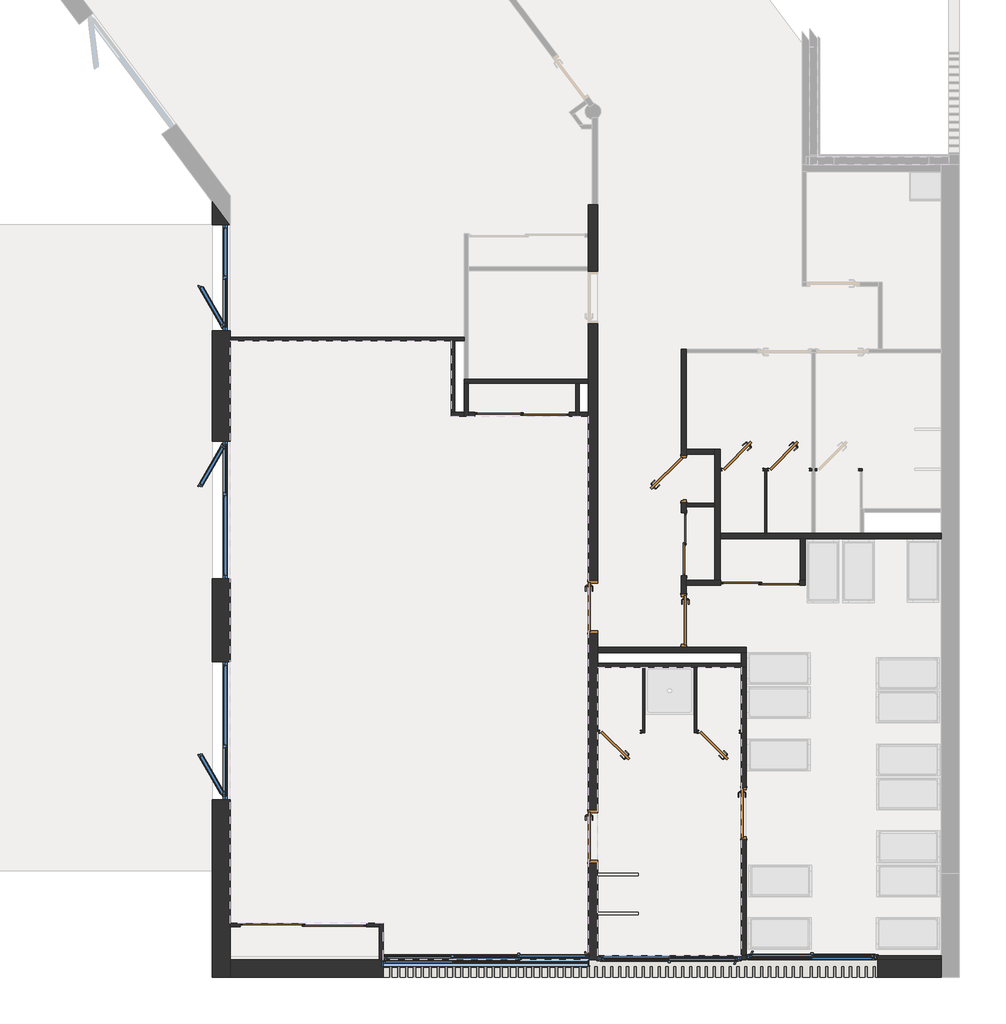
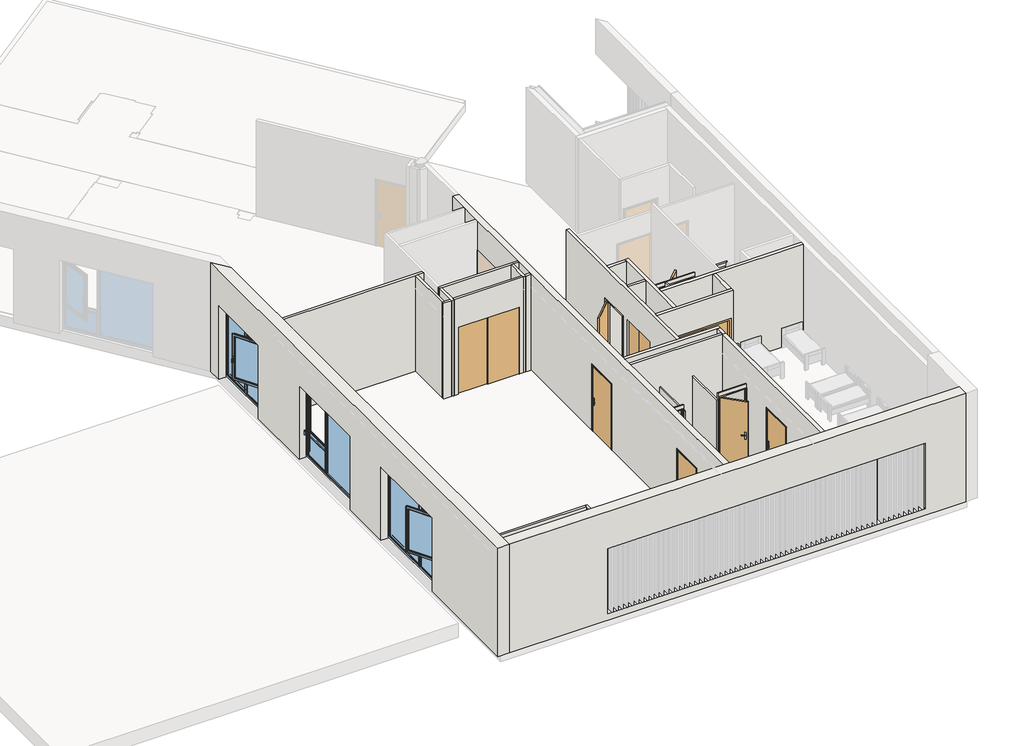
# One storey, part 1 of 4: 35 walls, 13 doors, 6 windows.
"""IFC4 building model written with IfcOpenShell, lengths in millimetres."""

from ifc_helpers import new_model, si_unit, frame, origin, place, context, project, spatial, polyline, outline, extrude, faceted_brep, transform, mapped, element, save
from components import int_simple_pp_0_73m_x_2_04m_179cc70a, int_simple_pp_0_73m_x_2_04m_9310f2cf, int_simple_pp_0_83m_x_2_04m_63dcc06d, int_simple_pp_0_93m_x_2_04m_4f2bf630, int_simple_pp_0_93m_x_2_04m_68d1b237, int_simple_pp_0_93m_x_2_04m_0354226a, placard_coulissante_2_panneaux_placard_coulissante_2_2c30b1b5, placard_coulissante_2_panneaux_placard_coulissante_2_3a5329ca, placard_coulissante_2_panneaux_placard_coulissante_2_65cc4ebb, placard_coulissante_2_panneaux_placard_coulissante_2_eb3e7d37, window_dbaeacc6, window_f4dcbe76, window_49c83c31, window_247b9f68, window_944cba15, window_c5311feb, window_2_50_x_2_05_4c13a54c, window_2_72_x_2_05_d5d4948e, window_3_90_x_2_05_370ec719

model = new_model("IFC4")

# Units and contexts
model_context = context("Model", 3, world=origin())
ifc_project = project(units=[si_unit("LENGTHUNIT", "METRE", prefix="MILLI")], contexts=[model_context])

# Site, building, storey
site = spatial("IfcSite", under=ifc_project)
building = spatial("IfcBuilding", under=site)
storey = spatial("IfcBuildingStorey", under=building, Name="1 Cdl 1er 3.95", Elevation=3950.0)

# Doors
placement = place(None, origin())
int_simple_pp_0_73m_x_2_04m_shape = int_simple_pp_0_73m_x_2_04m_179cc70a(model_context)
element("IfcDoor", 1, ObjectType="Int. Simple : PP (0.73m x 2.04m)", at=placement, inside=storey, context=model_context, shape_type="MappedRepresentation", body=[
    mapped(int_simple_pp_0_73m_x_2_04m_shape, transform((-2020.395491, -6492.3510598, 3950.0), x_axis=(-1.0, 0.0, 0.0), y_axis=(0.0, -1.0, 0.0), z_axis=(0.0, 0.0, 1.0))),
])
element("IfcDoor", 2, ObjectType="Int. Simple : PP (0.73m x 2.04m)", at=placement, inside=storey, context=model_context, shape_type="MappedRepresentation", body=[
    mapped(int_simple_pp_0_73m_x_2_04m_shape, transform((-1135.395491, -6492.3510598, 3950.0), x_axis=(-1.0, 0.0, 0.0), y_axis=(0.0, -1.0, 0.0), z_axis=(0.0, 0.0, 1.0))),
])
int_simple_pp_0_73m_x_2_04m_2_shape = int_simple_pp_0_73m_x_2_04m_9310f2cf(model_context)
element("IfcDoor", 3, ObjectType="Int. Simple : PP (0.73m x 2.04m)", at=placement, inside=storey, context=model_context, shape_type="MappedRepresentation", body=[
    mapped(int_simple_pp_0_73m_x_2_04m_2_shape, transform((-4344.5333363, -11476.4366169, 3950.0), x_axis=(-1.0, 0.0, 0.0), y_axis=(0.0, -1.0, 0.0), z_axis=(0.0, 0.0, 1.0))),
])
element("IfcDoor", 4, ObjectType="Int. Simple : PP (0.73m x 2.04m)", at=placement, inside=storey, context=model_context, shape_type="MappedRepresentation", body=[
    mapped(int_simple_pp_0_73m_x_2_04m_2_shape, transform((-2469.0627116, -11476.4366169, 3950.0), x_axis=(-1.0, 0.0, 0.0), y_axis=(0.0, -1.0, 0.0), z_axis=(0.0, 0.0, 1.0))),
])
int_simple_pp_0_83m_x_2_04m_shape = int_simple_pp_0_83m_x_2_04m_63dcc06d(model_context)
element("IfcDoor", 5, ObjectType="Int. Simple : PP (0.83m x 2.04m)", at=placement, inside=storey, context=model_context, shape_type="MappedRepresentation", body=[
    mapped(int_simple_pp_0_83m_x_2_04m_shape, transform((-3100.395491, -6634.411813, 3950.0), x_axis=(0.0, 1.0, 0.0), y_axis=(-1.0, 0.0, 0.0), z_axis=(0.0, 0.0, 1.0))),
])
int_simple_pp_0_93m_x_2_04m_shape = int_simple_pp_0_93m_x_2_04m_4f2bf630(model_context)
element("IfcDoor", 6, ObjectType="Int. Simple : PP (0.93m x 2.04m)", at=placement, inside=storey, context=model_context, shape_type="MappedRepresentation", body=[
    mapped(int_simple_pp_0_93m_x_2_04m_shape, transform((-1960.7246333, -13062.5014196, 3950.0), x_axis=(0.0, -1.0, 0.0), y_axis=(1.0, 0.0, 0.0), z_axis=(0.0, 0.0, 1.0))),
])
int_simple_pp_0_93m_x_2_04m_2_shape = int_simple_pp_0_93m_x_2_04m_68d1b237(model_context)
element("IfcDoor", 7, ObjectType="Int. Simple : PP (0.93m x 2.04m)", at=placement, inside=storey, context=model_context, shape_type="MappedRepresentation", body=[
    mapped(int_simple_pp_0_93m_x_2_04m_2_shape, transform((-3100.395491, -9393.5653894, 3950.0), x_axis=(0.0, -1.0, 0.0), y_axis=(1.0, 0.0, 0.0), z_axis=(0.0, 0.0, 1.0))),
])
int_simple_pp_0_93m_x_2_04m_3_shape = int_simple_pp_0_93m_x_2_04m_0354226a(model_context)
element("IfcDoor", 8, ObjectType="Int. Simple : PP (0.93m x 2.04m)", at=placement, inside=storey, context=model_context, shape_type="MappedRepresentation", body=[
    mapped(int_simple_pp_0_93m_x_2_04m_3_shape, transform((-4828.5161429, -13503.7948986, 3950.0), x_axis=(0.0, -1.0, 0.0), y_axis=(1.0, 0.0, 0.0), z_axis=(0.0, 0.0, 1.0))),
])
element("IfcDoor", 9, ObjectType="Int. Simple : PP (0.93m x 2.04m)", at=placement, inside=storey, context=model_context, shape_type="MappedRepresentation", body=[
    mapped(int_simple_pp_0_93m_x_2_04m_3_shape, transform((-4828.5161429, -9140.5106113, 3950.0), x_axis=(0.0, -1.0, 0.0), y_axis=(1.0, 0.0, 0.0), z_axis=(0.0, 0.0, 1.0))),
])
placard_coulissante_2_panneaux_placard_coulissante_2_shape = placard_coulissante_2_panneaux_placard_coulissante_2_2c30b1b5(model_context)
element("IfcDoor", 10, ObjectType="Placard coulissante - 2 panneaux : Placard coulissante - 2 panneaux 1.80", at=placement, inside=storey, context=model_context, shape_type="MappedRepresentation", body=[
    mapped(placard_coulissante_2_panneaux_placard_coulissante_2_shape, transform((-6177.3814374, -5440.8771251, 3950.0), x_axis=(-1.0, 0.0, 0.0), y_axis=(0.0, -1.0, 0.0), z_axis=(0.0, 0.0, 1.0))),
])
placard_coulissante_2_panneaux_placard_coulissante_2_2_shape = placard_coulissante_2_panneaux_placard_coulissante_2_3a5329ca(model_context)
element("IfcDoor", 11, ObjectType="Placard coulissante - 2 panneaux : Placard coulissante - 2 panneaux 120", at=placement, inside=storey, context=model_context, shape_type="MappedRepresentation", body=[
    mapped(placard_coulissante_2_panneaux_placard_coulissante_2_2_shape, transform((-3100.395491, -7908.2659187, 3950.0), x_axis=(0.0, 1.0, 0.0), y_axis=(-1.0, 0.0, 0.0), z_axis=(0.0, 0.0, 1.0))),
])
placard_coulissante_2_panneaux_placard_coulissante_2_3_shape = placard_coulissante_2_panneaux_placard_coulissante_2_65cc4ebb(model_context)
element("IfcDoor", 12, ObjectType="Placard coulissante - 2 panneaux : Placard coulissante - 2 panneaux 150", at=placement, inside=storey, context=model_context, shape_type="MappedRepresentation", body=[
    mapped(placard_coulissante_2_panneaux_placard_coulissante_2_3_shape, transform((-1644.6870946, -8642.3504346, 3950.0), x_axis=(1.0, 0.0, 0.0), y_axis=(0.0, 1.0, 0.0), z_axis=(0.0, 0.0, 1.0))),
])
placard_coulissante_2_panneaux_placard_coulissante_2_4_shape = placard_coulissante_2_panneaux_placard_coulissante_2_eb3e7d37(model_context)
element("IfcDoor", 13, ObjectType="Placard coulissante - 2 panneaux : Placard coulissante - 2 panneaux 2.40", at=placement, inside=storey, context=model_context, shape_type="MappedRepresentation", body=[
    mapped(placard_coulissante_2_panneaux_placard_coulissante_2_4_shape, transform((-10332.2256318, -15149.1784251, 3950.0), x_axis=(1.0, 0.0, 0.0), y_axis=(0.0, 1.0, 0.0), z_axis=(0.0, 0.0, 1.0))),
])

# Walls
element("IfcWall", 14, ObjectType="A Béton 20 + vide 1 +  Doublage 14", at=placement, inside=storey, context=model_context, shape_type="Brep", body=[
    faceted_brep([(-12065.9579574, -16148.5662223, 7350.0), (-12065.9579574, -1397.8436303, 7350.0), (-12065.9579574, -1397.8436303, 3950.0), (-12065.9579574, -1831.2665098, 3950.0), (-12065.9579574, -1831.2665098, 6250.0), (-12065.9579574, -3851.2665098, 6250.0), (-12065.9579574, -3851.2665098, 3950.0), (-12065.9579574, -5950.2942207, 3950.0), (-12065.9579574, -5950.2942207, 6250.0), (-12065.9579574, -8570.2942207, 6250.0), (-12065.9579574, -8570.2942207, 3950.0), (-12065.9579574, -10146.4190459, 3950.0), (-12065.9579574, -10146.4190459, 6250.0), (-12065.9579574, -12766.4190459, 6250.0), (-12065.9579574, -12766.4190459, 3950.0), (-12065.9579574, -16148.5662223, 3950.0), (-11725.9579574, -1851.3338689, 7350.0), (-11725.9579574, -15808.5662223, 7350.0), (-11725.9579574, -16148.5662223, 7350.0), (-11725.9579574, -16148.5662223, 3950.0), (-11725.9579574, -15808.5662223, 3950.0), (-11725.9579574, -12766.4190459, 3950.0), (-11725.9579574, -12766.4190459, 6250.0), (-11725.9579574, -10146.4190459, 6250.0), (-11725.9579574, -10146.4190459, 3950.0), (-11725.9579574, -8570.2942207, 3950.0), (-11725.9579574, -8570.2942207, 6250.0), (-11725.9579574, -5950.2942207, 6250.0), (-11725.9579574, -5950.2942207, 3950.0), (-11725.9579574, -3851.2665098, 3950.0), (-11725.9579574, -3851.2665098, 6250.0), (-11725.9579574, -1851.3338689, 6250.0), (-11741.0032693, -1831.2665098, 3950.0), (-11741.0032693, -1831.2665098, 6250.0)], [[[0, 1, 2, 3, 4, 5, 6, 7, 8, 9, 10, 11, 12, 13, 14, 15]], [[16, 17, 18, 19, 20, 21, 22, 23, 24, 25, 26, 27, 28, 29, 30, 31]], [[19, 15, 14, 21, 20]], [[24, 11, 10, 25]], [[6, 29, 28, 7]], [[3, 2, 32]], [[1, 0, 18, 17, 16]], [[2, 1, 16, 31, 33, 32]], [[0, 15, 19, 18]], [[5, 30, 29, 6]], [[30, 5, 4, 33, 31]], [[13, 22, 21, 14]], [[22, 13, 12, 23]], [[23, 12, 11, 24]], [[27, 8, 7, 28]], [[8, 27, 26, 9]], [[9, 26, 25, 10]], [[33, 4, 3, 32]]]),
])
element("IfcWall", 15, ObjectType="A Béton 20 + vide 1 +  Doublage 14", at=placement, inside=storey, context=model_context, shape_type="SweptSolid", body=[
    extrude(outline(polyline([(3950.0, -11725.9579574), (3950.0, 1796.9234173), (7350.0, 1796.9234173), (7350.0, -11725.9579574), (3950.0, -11725.9579574)]), holes=[polyline([(6200.0, 592.9343052), (4150.0, 592.9343052), (4150.0, -8817.2256318), (6200.0, -8817.2256318), (6200.0, 592.9343052)])]), frame((0.0, -16148.5662223, 0.0), z_axis=(0.0, 1.0, 0.0), x_axis=(0.0, 0.0, 1.0)), (0.0, 0.0, 1.0), 340.0),
])
element("IfcWall", 16, ObjectType="A cloison placostil 98 sèche", at=placement, inside=storey, context=model_context, shape_type="Brep", body=[
    faceted_brep([(-2410.395491, -7802.5539694, 3950.0), (-889.6870946, -7802.5539694, 3950.0), (-789.6870946, -7802.5539694, 3950.0), (1796.9234173, -7802.5539694, 3950.0), (1796.9234173, -7802.5539694, 6950.0), (-789.6870946, -7802.5539694, 6950.0), (-889.6870946, -7802.5539694, 6950.0), (-2410.395491, -7802.5539694, 6950.0), (-2410.395491, -7702.5539694, 3950.0), (-2410.395491, -7702.5539694, 6950.0), (-670.3954629, -7702.5539694, 6950.0), (-600.3954629, -7702.5539694, 6950.0), (252.548896, -7702.5539694, 6950.0), (322.548896, -7702.5539694, 6950.0), (1796.9234173, -7702.5539694, 6950.0), (1796.9234173, -7702.5539694, 3950.0), (322.548896, -7702.5539694, 3950.0), (252.548896, -7702.5539694, 3950.0), (-600.3954629, -7702.5539694, 3950.0), (-670.3954629, -7702.5539694, 3950.0)], [[[0, 1, 2, 3, 4, 5, 6, 7]], [[8, 9, 10, 11, 12, 13, 14, 15, 16, 17, 18, 19]], [[3, 2, 1, 0, 8, 19, 18, 17, 16, 15]], [[4, 3, 15, 14]], [[7, 6, 5, 4, 14, 13, 12, 11, 10, 9]], [[0, 7, 9, 8]]]),
])
element("IfcWall", 17, ObjectType="A cloison placostil 98 sèche", at=placement, inside=storey, context=model_context, shape_type="Brep", body=[
    faceted_brep([(-3150.395491, -9873.5653894, 3950.0), (-3150.395491, -9873.5653894, 6950.0), (-3150.395491, -4202.3504346, 6950.0), (-3150.395491, -4202.3504346, 3950.0), (-3150.395491, -6219.411813, 3950.0), (-3150.395491, -6219.411813, 6025.0), (-3150.395491, -7119.411813, 6025.0), (-3150.395491, -7119.411813, 3950.0), (-3150.395491, -7308.2659187, 3950.0), (-3150.395491, -7308.2659187, 6050.0), (-3150.395491, -8508.2659187, 6050.0), (-3150.395491, -8508.2659187, 3950.0), (-3150.395491, -8858.5653894, 3950.0), (-3150.395491, -8858.5653894, 6025.0), (-3150.395491, -9858.5653894, 6025.0), (-3150.395491, -9858.5653894, 3950.0), (-3050.395491, -9873.5653894, 6950.0), (-3050.395491, -9873.5653894, 3950.0), (-3050.395491, -9858.5653894, 3950.0), (-3050.395491, -9858.5653894, 6025.0), (-3050.395491, -8858.5653894, 6025.0), (-3050.395491, -8858.5653894, 3950.0), (-3050.395491, -8692.3504346, 3950.0), (-3050.395491, -8592.3504346, 3950.0), (-3050.395491, -8508.2659187, 3950.0), (-3050.395491, -8508.2659187, 6050.0), (-3050.395491, -7308.2659187, 6050.0), (-3050.395491, -7308.2659187, 3950.0), (-3050.395491, -7201.2659187, 3950.0), (-3050.395491, -7131.2659187, 3950.0), (-3050.395491, -7119.411813, 3950.0), (-3050.395491, -7119.411813, 6025.0), (-3050.395491, -6219.411813, 6025.0), (-3050.395491, -6219.411813, 3950.0), (-3050.395491, -6204.411813, 3950.0), (-3050.395491, -6104.411813, 3950.0), (-3050.395491, -4272.3504346, 3950.0), (-3050.395491, -4202.3504346, 3950.0), (-3050.395491, -4202.3504346, 6700.0), (-3050.395491, -4202.3504346, 6950.0), (-3050.395491, -6104.411813, 6950.0), (-3050.395491, -6204.411813, 6950.0), (-3050.395491, -7131.2659187, 6950.0), (-3050.395491, -7201.2659187, 6950.0), (-3050.395491, -8592.3504346, 6950.0), (-3050.395491, -8692.3504346, 6950.0)], [[[0, 1, 2, 3, 4, 5, 6, 7, 8, 9, 10, 11, 12, 13, 14, 15]], [[16, 17, 18, 19, 20, 21, 22, 23, 24, 25, 26, 27, 28, 29, 30, 31, 32, 33, 34, 35, 36, 37, 38, 39, 40, 41, 42, 43, 44, 45]], [[17, 0, 15, 18]], [[3, 37, 36, 35, 34, 33, 4]], [[21, 12, 11, 24, 23, 22]], [[7, 30, 29, 28, 27, 8]], [[1, 0, 17, 16]], [[2, 1, 16, 45, 44, 43, 42, 41, 40, 39]], [[3, 2, 39, 38, 37]], [[14, 19, 18, 15]], [[19, 14, 13, 20]], [[20, 13, 12, 21]], [[5, 4, 33, 32]], [[6, 5, 32, 31]], [[7, 6, 31, 30]], [[26, 9, 8, 27]], [[9, 26, 25, 10]], [[10, 25, 24, 11]]]),
])
element("IfcWall", 18, ObjectType="A cloison placostil 98 sèche", at=placement, inside=storey, context=model_context, shape_type="Brep", body=[
    faceted_brep([(-789.6870946, -8692.3504346, 6950.0), (-3050.395491, -8692.3504346, 6950.0), (-3050.395491, -8692.3504346, 3950.0), (-2394.6870946, -8692.3504346, 3950.0), (-2394.6870946, -8692.3504346, 6050.0), (-894.6870946, -8692.3504346, 6050.0), (-894.6870946, -8692.3504346, 3950.0), (-789.6870946, -8692.3504346, 3950.0), (-3050.395491, -8592.3504346, 6950.0), (-2510.395491, -8592.3504346, 6950.0), (-2410.395491, -8592.3504346, 6950.0), (-889.6870946, -8592.3504346, 6950.0), (-789.6870946, -8592.3504346, 6950.0), (-789.6870946, -8592.3504346, 3950.0), (-889.6870946, -8592.3504346, 3950.0), (-894.6870946, -8592.3504346, 3950.0), (-894.6870946, -8592.3504346, 6050.0), (-2394.6870946, -8592.3504346, 6050.0), (-2394.6870946, -8592.3504346, 3950.0), (-2410.395491, -8592.3504346, 3950.0), (-2510.395491, -8592.3504346, 3950.0), (-3050.395491, -8592.3504346, 3950.0)], [[[0, 1, 2, 3, 4, 5, 6, 7]], [[8, 9, 10, 11, 12, 13, 14, 15, 16, 17, 18, 19, 20, 21]], [[2, 21, 20, 19, 18, 3]], [[13, 7, 6, 15, 14]], [[1, 0, 12, 11, 10, 9, 8]], [[2, 1, 8, 21]], [[0, 7, 13, 12]], [[5, 16, 15, 6]], [[16, 5, 4, 17]], [[17, 4, 3, 18]]]),
])
element("IfcWall", 19, ObjectType="A cloison placostil 98 sèche", at=placement, inside=storey, context=model_context, shape_type="SweptSolid", body=[
    extrude(outline(polyline([(-789.6870946, -7802.5539694), (-789.6870946, -8592.3504346), (-889.6870946, -8592.3504346), (-889.6870946, -7802.5539694), (-789.6870946, -7802.5539694)])), frame((0.0, 0.0, 3950.0), z_axis=(0.0, 0.0, 1.0), x_axis=(1.0, 0.0, 0.0)), (0.0, 0.0, 1.0), 3000.0),
])
element("IfcWall", 20, ObjectType="A cloison placostil 98 sèche", at=placement, inside=storey, context=model_context, shape_type="Brep", body=[
    faceted_brep([(-2410.395491, -8592.3504346, 3950.0), (-2410.395491, -7802.5539694, 3950.0), (-2410.395491, -7702.5539694, 3950.0), (-2410.395491, -6104.411813, 3950.0), (-2410.395491, -6104.411813, 6950.0), (-2410.395491, -7702.5539694, 6950.0), (-2410.395491, -7802.5539694, 6950.0), (-2410.395491, -8592.3504346, 6950.0), (-2510.395491, -8592.3504346, 3950.0), (-2510.395491, -8592.3504346, 6950.0), (-2510.395491, -7201.2659187, 6950.0), (-2510.395491, -7131.2659187, 6950.0), (-2510.395491, -6204.411813, 6950.0), (-2510.395491, -6104.411813, 6950.0), (-2510.395491, -6104.411813, 3950.0), (-2510.395491, -6204.411813, 3950.0), (-2510.395491, -7131.2659187, 3950.0), (-2510.395491, -7201.2659187, 3950.0)], [[[0, 1, 2, 3, 4, 5, 6, 7]], [[8, 9, 10, 11, 12, 13, 14, 15, 16, 17]], [[3, 2, 1, 0, 8, 17, 16, 15, 14]], [[7, 6, 5, 4, 13, 12, 11, 10, 9]], [[0, 7, 9, 8]], [[4, 3, 14, 13]]]),
])
element("IfcWall", 21, ObjectType="A cloison placostil 98 sèche", at=placement, inside=storey, context=model_context, shape_type="SweptSolid", body=[
    extrude(outline(polyline([(-3050.395491, -6104.411813), (-2510.395491, -6104.411813), (-2510.395491, -6204.411813), (-3050.395491, -6204.411813), (-3050.395491, -6104.411813)])), frame((0.0, 0.0, 3950.0), z_axis=(0.0, 0.0, 1.0), x_axis=(1.0, 0.0, 0.0)), (0.0, 0.0, 1.0), 3000.0),
])
element("IfcWall", 22, ObjectType="A cloison placostil 72 sèche", at=placement, inside=storey, context=model_context, shape_type="SweptSolid", body=[
    extrude(outline(polyline([(-2510.395491, -7201.2659187), (-3050.395491, -7201.2659187), (-3050.395491, -7131.2659187), (-2510.395491, -7131.2659187), (-2510.395491, -7201.2659187)])), frame((0.0, 0.0, 3950.0), z_axis=(0.0, 0.0, 1.0), x_axis=(1.0, 0.0, 0.0)), (0.0, 0.0, 1.0), 3000.0),
])
element("IfcWall", 23, ObjectType="A cloison placostil 72 sèche", at=placement, inside=storey, context=model_context, shape_type="Brep", body=[
    faceted_brep([(-4918.5161429, -4776.0460811, 3950.0), (-7202.3814374, -4776.0460811, 3950.0), (-7272.3814374, -4776.0460811, 3950.0), (-7272.3814374, -4776.0460811, 6950.0), (-7202.3814374, -4776.0460811, 6950.0), (-4918.5161429, -4776.0460811, 6950.0), (-4918.5161429, -4846.0460811, 3950.0), (-4918.5161429, -4846.0460811, 6950.0), (-5082.772014, -4846.0460811, 6950.0), (-5152.772014, -4846.0460811, 6950.0), (-7202.3814374, -4846.0460811, 6950.0), (-7272.3814374, -4846.0460811, 6950.0), (-7272.3814374, -4846.0460811, 3950.0), (-7202.3814374, -4846.0460811, 3950.0), (-5152.772014, -4846.0460811, 3950.0), (-5082.772014, -4846.0460811, 3950.0)], [[[0, 1, 2, 3, 4, 5]], [[6, 7, 8, 9, 10, 11, 12, 13, 14, 15]], [[2, 1, 0, 6, 15, 14, 13, 12]], [[5, 4, 3, 11, 10, 9, 8, 7]], [[3, 2, 12, 11]], [[0, 5, 7, 6]]]),
])
element("IfcWall", 24, ObjectType="A cloison placostil 72 sèche", at=placement, inside=storey, context=model_context, shape_type="Brep", body=[
    faceted_brep([(-7272.3814374, -3972.1419324, 3950.0), (-11725.9579574, -3972.1419324, 3950.0), (-11725.9579574, -3972.1419324, 6950.0), (-7272.3814374, -3972.1419324, 6950.0), (-7272.3814374, -4042.1419324, 3950.0), (-7272.3814374, -4042.1419324, 6950.0), (-7450.1037368, -4042.1419324, 6950.0), (-7520.1037368, -4042.1419324, 6950.0), (-11725.9579574, -4042.1419324, 6950.0), (-11725.9579574, -4042.1419324, 3950.0), (-7520.1037368, -4042.1419324, 3950.0), (-7450.1037368, -4042.1419324, 3950.0)], [[[0, 1, 2, 3]], [[4, 5, 6, 7, 8, 9, 10, 11]], [[1, 0, 4, 11, 10, 9]], [[2, 1, 9, 8]], [[3, 2, 8, 7, 6, 5]], [[0, 3, 5, 4]]]),
])
element("IfcWall", 25, ObjectType="A cloison placostil 72 sèche", at=placement, inside=storey, context=model_context, shape_type="Brep", body=[
    faceted_brep([(-7272.3814374, -4846.0460811, 3950.0), (-7272.3814374, -5405.8771251, 3950.0), (-7272.3814374, -5475.8771251, 3950.0), (-7272.3814374, -5475.8771251, 6950.0), (-7272.3814374, -5405.8771251, 6950.0), (-7272.3814374, -4846.0460811, 6950.0), (-7202.3814374, -4846.0460811, 3950.0), (-7202.3814374, -4846.0460811, 6950.0), (-7202.3814374, -5405.8771251, 6950.0), (-7202.3814374, -5475.8771251, 6950.0), (-7202.3814374, -5475.8771251, 3950.0), (-7202.3814374, -5405.8771251, 3950.0)], [[[0, 1, 2, 3, 4, 5]], [[6, 7, 8, 9, 10, 11]], [[2, 1, 0, 6, 11, 10]], [[5, 4, 3, 9, 8, 7]], [[0, 5, 7, 6]], [[3, 2, 10, 9]]]),
])
element("IfcWall", 26, ObjectType="A cloison placostil 72 sèche", at=placement, inside=storey, context=model_context, shape_type="Brep", body=[
    faceted_brep([(-7272.3814374, -5405.8771251, 3950.0), (-7450.1037368, -5405.8771251, 3950.0), (-7520.1037368, -5405.8771251, 3950.0), (-7520.1037368, -5405.8771251, 6950.0), (-7450.1037368, -5405.8771251, 6950.0), (-7272.3814374, -5405.8771251, 6950.0), (-7272.3814374, -5475.8771251, 3950.0), (-7272.3814374, -5475.8771251, 6950.0), (-7520.1037368, -5475.8771251, 6950.0), (-7520.1037368, -5475.8771251, 3950.0)], [[[0, 1, 2, 3, 4, 5]], [[6, 7, 8, 9]], [[2, 1, 0, 6, 9]], [[5, 4, 3, 8, 7]], [[0, 5, 7, 6]], [[3, 2, 9, 8]]]),
])
element("IfcWall", 27, ObjectType="A cloison placostil 72 sèche", at=placement, inside=storey, context=model_context, shape_type="SweptSolid", body=[
    extrude(outline(polyline([(-7450.1037368, -4042.1419324), (-7450.1037368, -5405.8771251), (-7520.1037368, -5405.8771251), (-7520.1037368, -4042.1419324), (-7450.1037368, -4042.1419324)])), frame((0.0, 0.0, 3950.0), z_axis=(0.0, 0.0, 1.0), x_axis=(1.0, 0.0, 0.0)), (0.0, 0.0, 1.0), 3000.0),
])
element("IfcWall", 28, ObjectType="A cloison placostil 72 sèche", at=placement, inside=storey, context=model_context, shape_type="Brep", body=[
    faceted_brep([(-5152.772014, -4846.0460811, 3950.0), (-5152.772014, -5405.8771251, 3950.0), (-5152.772014, -5475.8771251, 3950.0), (-5152.772014, -5475.8771251, 6950.0), (-5152.772014, -5405.8771251, 6950.0), (-5152.772014, -4846.0460811, 6950.0), (-5082.772014, -4846.0460811, 3950.0), (-5082.772014, -4846.0460811, 6950.0), (-5082.772014, -5405.8771251, 6950.0), (-5082.772014, -5475.8771251, 6950.0), (-5082.772014, -5475.8771251, 3950.0), (-5082.772014, -5405.8771251, 3950.0)], [[[0, 1, 2, 3, 4, 5]], [[6, 7, 8, 9, 10, 11]], [[2, 1, 0, 6, 11, 10]], [[5, 4, 3, 9, 8, 7]], [[0, 5, 7, 6]], [[3, 2, 10, 9]]]),
])
element("IfcWall", 29, ObjectType="A cloison placostil 72 sèche", at=placement, inside=storey, context=model_context, shape_type="SweptSolid", body=[
    extrude(outline(polyline([(-4918.5161429, -5475.8771251), (-5082.772014, -5475.8771251), (-5082.772014, -5405.8771251), (-4918.5161429, -5405.8771251), (-4918.5161429, -5475.8771251)])), frame((0.0, 0.0, 3950.0), z_axis=(0.0, 0.0, 1.0), x_axis=(1.0, 0.0, 0.0)), (0.0, 0.0, 1.0), 3000.0),
])
element("IfcWall", 30, ObjectType="A cloison placostil 72 sèche", at=placement, inside=storey, context=model_context, shape_type="SweptSolid", body=[
    extrude(outline(polyline([(6950.0, -5152.772014), (6950.0, -7202.3814374), (3950.0, -7202.3814374), (3950.0, -7077.3814374), (6050.0, -7077.3814374), (6050.0, -5277.3814374), (3950.0, -5277.3814374), (3950.0, -5152.772014), (6950.0, -5152.772014)])), frame((0.0, -5475.8771251, 0.0), z_axis=(0.0, 1.0, 0.0), x_axis=(0.0, 0.0, 1.0)), (0.0, 0.0, 1.0), 70.0),
])
element("IfcWall", 31, ObjectType="A cloison placostil 98 sèche", at=placement, inside=storey, context=model_context, shape_type="Brep", body=[
    faceted_brep([(-1910.7246333, -10246.4366169, 3950.0), (-1910.7246333, -10246.4366169, 6950.0), (-1910.7246333, -15738.5662223, 6950.0), (-1910.7246333, -15738.5662223, 6200.0), (-1910.7246333, -15738.5662223, 3950.0), (-1910.7246333, -13527.5014196, 3950.0), (-1910.7246333, -13527.5014196, 6025.0), (-1910.7246333, -12527.5014196, 6025.0), (-1910.7246333, -12527.5014196, 3950.0), (-2010.7246333, -10246.4366169, 6950.0), (-2010.7246333, -10246.4366169, 3950.0), (-2010.7246333, -12527.5014196, 3950.0), (-2010.7246333, -12527.5014196, 6025.0), (-2010.7246333, -13527.5014196, 6025.0), (-2010.7246333, -13527.5014196, 3950.0), (-2010.7246333, -15738.5662223, 3950.0), (-2010.7246333, -15738.5662223, 6950.0)], [[[0, 1, 2, 3, 4, 5, 6, 7, 8]], [[9, 10, 11, 12, 13, 14, 15, 16]], [[10, 0, 8, 11]], [[4, 15, 14, 5]], [[1, 0, 10, 9]], [[2, 1, 9, 16]], [[13, 6, 5, 14]], [[6, 13, 12, 7]], [[7, 12, 11, 8]], [[4, 3, 2, 16, 15]]]),
])
element("IfcWall", 32, ObjectType="A cloison placostil 98 sèche", at=placement, inside=storey, context=model_context, shape_type="Brep", body=[
    faceted_brep([(-4738.5161429, -9973.5653894, 3950.0), (-2010.7246333, -9973.5653894, 3950.0), (-1910.7246333, -9973.5653894, 3950.0), (-1910.7246333, -9973.5653894, 6950.0), (-2010.7246333, -9973.5653894, 6950.0), (-4738.5161429, -9973.5653894, 6950.0), (-4738.5161429, -9873.5653894, 3950.0), (-4738.5161429, -9873.5653894, 6950.0), (-1910.7246333, -9873.5653894, 6950.0), (-1910.7246333, -9873.5653894, 3950.0)], [[[0, 1, 2, 3, 4, 5]], [[6, 7, 8, 9]], [[2, 1, 0, 6, 9]], [[5, 4, 3, 8, 7]], [[3, 2, 9, 8]], [[0, 5, 7, 6]]]),
])
element("IfcWall", 33, ObjectType="A cloison placostil 98 sèche", at=placement, inside=storey, context=model_context, shape_type="Brep", body=[
    faceted_brep([(-2010.7246333, -9973.5653894, 3950.0), (-2010.7246333, -10176.4366169, 3950.0), (-2010.7246333, -10246.4366169, 3950.0), (-2010.7246333, -10246.4366169, 6950.0), (-2010.7246333, -10176.4366169, 6950.0), (-2010.7246333, -9973.5653894, 6950.0), (-1910.7246333, -9973.5653894, 3950.0), (-1910.7246333, -9973.5653894, 6950.0), (-1910.7246333, -10246.4366169, 6950.0), (-1910.7246333, -10246.4366169, 3950.0)], [[[0, 1, 2, 3, 4, 5]], [[6, 7, 8, 9]], [[2, 1, 0, 6, 9]], [[5, 4, 3, 8, 7]], [[0, 5, 7, 6]], [[3, 2, 9, 8]]]),
])
element("IfcWall", 34, ObjectType="A cloison placostil 72 sèche", at=placement, inside=storey, context=model_context, shape_type="SweptSolid", body=[
    extrude(outline(polyline([(-2010.7246333, -10246.4366169), (-4738.5161429, -10246.4366169), (-4738.5161429, -10176.4366169), (-2010.7246333, -10176.4366169), (-2010.7246333, -10246.4366169)])), frame((0.0, 0.0, 3950.0), z_axis=(0.0, 0.0, 1.0), x_axis=(1.0, 0.0, 0.0)), (0.0, 0.0, 1.0), 3000.0),
])
element("IfcWall", 35, ObjectType="A Béton 18", at=placement, inside=storey, context=model_context, shape_type="Brep", body=[
    faceted_brep([(-4918.5161429, -15808.5662223, 6950.0), (-4918.5161429, -1453.5126421, 6950.0), (-4918.5161429, -1453.5126421, 3950.0), (-4918.5161429, -2719.5655769, 3950.0), (-4918.5161429, -2719.5655769, 6025.0), (-4918.5161429, -3719.5655769, 6025.0), (-4918.5161429, -3719.5655769, 3950.0), (-4918.5161429, -8605.5106113, 3950.0), (-4918.5161429, -8605.5106113, 6025.0), (-4918.5161429, -9605.5106113, 6025.0), (-4918.5161429, -9605.5106113, 3950.0), (-4918.5161429, -12968.7948986, 3950.0), (-4918.5161429, -12968.7948986, 6025.0), (-4918.5161429, -13968.7948986, 6025.0), (-4918.5161429, -13968.7948986, 3950.0), (-4918.5161429, -15808.5662223, 3950.0), (-4918.5161429, -15808.5662223, 4120.0), (-4918.5161429, -15808.5662223, 4150.0), (-4918.5161429, -15738.5662223, 4150.0), (-4918.5161429, -15738.5662223, 6232.0), (-4918.5161429, -15808.5662223, 6232.0), (-4738.5161429, -15808.5662223, 6950.0), (-4738.5161429, -15808.5662223, 3950.0), (-4738.5161429, -13968.7948986, 3950.0), (-4738.5161429, -13968.7948986, 6025.0), (-4738.5161429, -12968.7948986, 6025.0), (-4738.5161429, -12968.7948986, 3950.0), (-4738.5161429, -9605.5106113, 3950.0), (-4738.5161429, -9605.5106113, 6025.0), (-4738.5161429, -8605.5106113, 6025.0), (-4738.5161429, -8605.5106113, 3950.0), (-4738.5161429, -3719.5655769, 3950.0), (-4738.5161429, -3719.5655769, 6025.0), (-4738.5161429, -2719.5655769, 6025.0), (-4738.5161429, -2719.5655769, 3950.0), (-4738.5161429, -1453.5126421, 3950.0), (-4738.5161429, -1453.5126421, 6950.0), (-4902.8708873, -15808.5662223, 6232.0), (-4902.8708873, -15808.5662223, 4150.0), (-4917.8708873, -15808.5662223, 4150.0), (-4902.8708873, -15738.5662223, 6232.0), (-4902.8708873, -15738.5662223, 4150.0)], [[[0, 1, 2, 3, 4, 5, 6, 7, 8, 9, 10, 11, 12, 13, 14, 15, 16, 17, 18, 19, 20]], [[21, 22, 23, 24, 25, 26, 27, 28, 29, 30, 31, 32, 33, 34, 35, 36]], [[22, 15, 14, 23]], [[2, 35, 34, 3]], [[26, 11, 10, 27]], [[30, 7, 6, 31]], [[22, 21, 0, 20, 37, 38, 39, 17, 16, 15]], [[1, 0, 21, 36]], [[2, 1, 36, 35]], [[14, 13, 24, 23]], [[12, 11, 26, 25]], [[10, 9, 28, 27]], [[8, 7, 30, 29]], [[12, 25, 24, 13]], [[8, 29, 28, 9]], [[19, 40, 37, 20]], [[41, 18, 17, 39, 38]], [[41, 40, 19, 18]], [[40, 41, 38, 37]], [[33, 4, 3, 34]], [[4, 33, 32, 5]], [[5, 32, 31, 6]]]),
])
element("IfcWall", 36, ObjectType="A cloison placostil 72 sèche", at=placement, inside=storey, context=model_context, shape_type="Brep", body=[
    faceted_brep([(-8817.2256318, -15808.5662223, 3950.0), (-8817.2256318, -15738.5662223, 3950.0), (-8817.2256318, -15114.1784251, 3950.0), (-8817.2256318, -15114.1784251, 6950.0), (-8817.2256318, -15738.5662223, 6950.0), (-8817.2256318, -15808.5662223, 6950.0), (-8817.2256318, -15808.5662223, 6232.0), (-8817.2256318, -15738.5662223, 6232.0), (-8817.2256318, -15738.5662223, 4150.0), (-8817.2256318, -15808.5662223, 4150.0), (-8817.2256318, -15808.5662223, 4120.0), (-8887.2256318, -15114.1784251, 3950.0), (-8887.2256318, -15184.1784251, 3950.0), (-8887.2256318, -15808.5662223, 3950.0), (-8887.2256318, -15808.5662223, 6950.0), (-8887.2256318, -15184.1784251, 6950.0), (-8887.2256318, -15114.1784251, 6950.0), (-8817.8708873, -15808.5662223, 4150.0), (-8832.8708873, -15808.5662223, 4150.0), (-8832.8708873, -15808.5662223, 6232.0), (-8832.8708873, -15738.5662223, 6232.0), (-8832.8708873, -15738.5662223, 4150.0)], [[[0, 1, 2, 3, 4, 5, 6, 7, 8, 9, 10]], [[11, 12, 13, 14, 15, 16]], [[2, 1, 0, 13, 12, 11]], [[5, 4, 3, 16, 15, 14]], [[3, 2, 11, 16]], [[5, 14, 13, 0, 10, 9, 17, 18, 19, 6]], [[19, 20, 7, 6]], [[8, 21, 18, 17, 9]], [[20, 21, 8, 7]], [[21, 20, 19, 18]]]),
])
element("IfcWall", 37, ObjectType="A cloison placostil 72 sèche", at=placement, inside=storey, context=model_context, shape_type="SweptSolid", body=[
    extrude(outline(polyline([(6950.0, -11725.9579574), (3950.0, -11725.9579574), (3950.0, -11532.2256318), (6050.0, -11532.2256318), (6050.0, -9132.2256318), (3950.0, -9132.2256318), (3950.0, -8887.2256318), (6950.0, -8887.2256318), (6950.0, -11725.9579574)])), frame((0.0, -15184.1784251, 0.0), z_axis=(0.0, 1.0, 0.0), x_axis=(0.0, 0.0, 1.0)), (0.0, 0.0, 1.0), 70.0),
])
element("IfcWall", 38, ObjectType="A cloison placostil 72 sèche", at=placement, inside=storey, context=model_context, shape_type="Brep", body=[
    faceted_brep([(-4918.5161429, -15738.5662223, 3950.0), (-8817.2256318, -15738.5662223, 3950.0), (-8817.2256318, -15738.5662223, 4150.0), (-4918.5161429, -15738.5662223, 4150.0), (-8817.2256318, -15808.5662223, 3950.0), (-4918.5161429, -15808.5662223, 3950.0), (-4918.5161429, -15808.5662223, 4120.0), (-4918.5161429, -15808.5662223, 4150.0), (-8817.2256318, -15808.5662223, 4150.0), (-8817.2256318, -15808.5662223, 4120.0)], [[[0, 1, 2, 3]], [[4, 5, 6, 7, 8, 9]], [[1, 0, 5, 4]], [[1, 4, 9, 8, 2]], [[5, 0, 3, 7, 6]], [[3, 2, 8, 7]]]),
    faceted_brep([(-8817.2256318, -15738.5662223, 6950.0), (-4918.5161429, -15738.5662223, 6950.0), (-4918.5161429, -15738.5662223, 6232.0), (-8817.2256318, -15738.5662223, 6232.0), (-4918.5161429, -15808.5662223, 6950.0), (-8817.2256318, -15808.5662223, 6950.0), (-8817.2256318, -15808.5662223, 6232.0), (-4918.5161429, -15808.5662223, 6232.0)], [[[0, 1, 2, 3]], [[4, 5, 6, 7]], [[1, 0, 5, 4]], [[5, 0, 3, 6]], [[1, 4, 7, 2]], [[3, 2, 7, 6]]]),
])
element("IfcWall", 39, ObjectType="A cloison placostil 72 sèche", at=placement, inside=storey, context=model_context, shape_type="Brep", body=[
    faceted_brep([(1796.9234173, -15738.5662223, 3950.0), (-1910.7246333, -15738.5662223, 3950.0), (-2010.7246333, -15738.5662223, 3950.0), (-4738.5161429, -15738.5662223, 3950.0), (-4738.5161429, -15738.5662223, 4150.0), (-2018.5161429, -15738.5662223, 4150.0), (-2018.5161429, -15738.5662223, 6200.0), (-4738.5161429, -15738.5662223, 6200.0), (-4738.5161429, -15738.5662223, 6950.0), (-2010.7246333, -15738.5662223, 6950.0), (-1910.7246333, -15738.5662223, 6950.0), (1796.9234173, -15738.5662223, 6950.0), (589.2753667, -15738.5662223, 6200.0), (-1910.7246333, -15738.5662223, 6200.0), (-1910.7246333, -15738.5662223, 4150.0), (589.2753667, -15738.5662223, 4150.0), (-4738.5161429, -15808.5662223, 3950.0), (1796.9234173, -15808.5662223, 3950.0), (1796.9234173, -15808.5662223, 6950.0), (-4738.5161429, -15808.5662223, 6950.0), (-4738.5161429, -15808.5662223, 6200.0), (-2018.5161429, -15808.5662223, 6200.0), (-2018.5161429, -15808.5662223, 4150.0), (-4738.5161429, -15808.5662223, 4150.0), (-1910.7246333, -15808.5662223, 6200.0), (589.2753667, -15808.5662223, 6200.0), (589.2753667, -15808.5662223, 4150.0), (-1910.7246333, -15808.5662223, 4150.0)], [[[0, 1, 2, 3, 4, 5, 6, 7, 8, 9, 10, 11], [12, 13, 14, 15]], [[16, 17, 18, 19, 20, 21, 22, 23], [24, 25, 26, 27]], [[3, 2, 1, 0, 17, 16]], [[11, 10, 9, 8, 19, 18]], [[0, 11, 18, 17]], [[3, 16, 23, 4]], [[19, 8, 7, 20]], [[24, 13, 12, 25]], [[26, 15, 14, 27]], [[25, 12, 15, 26]], [[13, 24, 27, 14]], [[6, 21, 20, 7]], [[22, 5, 4, 23]], [[21, 6, 5, 22]]]),
])
element("IfcWall", 40, ObjectType="A Bois 4", at=placement, inside=storey, context=model_context, shape_type="Brep", body=[
    faceted_brep([(-670.3954629, -6512.3510598, 4150.0), (-670.3954629, -6512.3510598, 6150.0), (-1520.395491, -6512.3510598, 6150.0), (-1560.395491, -6512.3510598, 6150.0), (-2410.395491, -6512.3510598, 6150.0), (-2410.395491, -6512.3510598, 4150.0), (-2385.395491, -6512.3510598, 4150.0), (-2385.395491, -6512.3510598, 6025.0), (-1585.395491, -6512.3510598, 6025.0), (-1585.395491, -6512.3510598, 4150.0), (-1560.395491, -6512.3510598, 4150.0), (-1520.395491, -6512.3510598, 4150.0), (-1500.395491, -6512.3510598, 4150.0), (-1500.395491, -6512.3510598, 6025.0), (-700.395491, -6512.3510598, 6025.0), (-700.395491, -6512.3510598, 4150.0), (-670.3954629, -6472.3510598, 6150.0), (-670.3954629, -6472.3510598, 4150.0), (-700.395491, -6472.3510598, 4150.0), (-700.395491, -6472.3510598, 6025.0), (-1500.395491, -6472.3510598, 6025.0), (-1500.395491, -6472.3510598, 4150.0), (-1585.395491, -6472.3510598, 4150.0), (-1585.395491, -6472.3510598, 6025.0), (-2385.395491, -6472.3510598, 6025.0), (-2385.395491, -6472.3510598, 4150.0), (-2410.395491, -6472.3510598, 4150.0), (-2410.395491, -6472.3510598, 6150.0)], [[[0, 1, 2, 3, 4, 5, 6, 7, 8, 9, 10, 11, 12, 13, 14, 15]], [[16, 17, 18, 19, 20, 21, 22, 23, 24, 25, 26, 27]], [[17, 0, 15, 18]], [[5, 26, 25, 6]], [[9, 22, 21, 12, 11, 10]], [[1, 0, 17, 16]], [[4, 3, 2, 1, 16, 27]], [[5, 4, 27, 26]], [[24, 7, 6, 25]], [[7, 24, 23, 8]], [[8, 23, 22, 9]], [[20, 13, 12, 21]], [[19, 14, 13, 20]], [[14, 19, 18, 15]]]),
])
element("IfcWall", 41, ObjectType="A Bois 4", at=placement, inside=storey, context=model_context, shape_type="SweptSolid", body=[
    extrude(outline(polyline([(-1560.395491, -7702.5539694), (-1560.395491, -6512.3510598), (-1520.395491, -6512.3510598), (-1520.395491, -7702.5539694), (-1560.395491, -7702.5539694)])), frame((0.0, 0.0, 4150.0), z_axis=(0.0, 0.0, 1.0), x_axis=(1.0, 0.0, 0.0)), (0.0, 0.0, 1.0), 2000.0),
])
element("IfcWall", 42, ObjectType="A Bois 4", at=placement, inside=storey, context=model_context, shape_type="Brep", body=[
    faceted_brep([(292.548896, -6512.3510598, 6150.0), (252.548896, -6512.3510598, 6150.0), (-600.3954629, -6512.3510598, 6150.0), (-600.3954629, -6512.3510598, 4150.0), (-573.9232835, -6512.3510598, 4150.0), (-573.9232835, -6512.3510598, 6025.0), (226.0767165, -6512.3510598, 6025.0), (226.0767165, -6512.3510598, 4150.0), (252.548896, -6512.3510598, 4150.0), (292.548896, -6512.3510598, 4150.0), (-600.3954629, -6472.3510598, 6150.0), (292.548896, -6472.3510598, 6150.0), (292.548896, -6472.3510598, 4150.0), (226.0767165, -6472.3510598, 4150.0), (226.0767165, -6472.3510598, 6025.0), (-573.9232835, -6472.3510598, 6025.0), (-573.9232835, -6472.3510598, 4150.0), (-600.3954629, -6472.3510598, 4150.0)], [[[0, 1, 2, 3, 4, 5, 6, 7, 8, 9]], [[10, 11, 12, 13, 14, 15, 16, 17]], [[3, 17, 16, 4]], [[12, 9, 8, 7, 13]], [[2, 1, 0, 11, 10]], [[3, 2, 10, 17]], [[0, 9, 12, 11]], [[15, 5, 4, 16]], [[5, 15, 14, 6]], [[6, 14, 13, 7]]]),
])
element("IfcWall", 43, ObjectType="A Bois 4", at=placement, inside=storey, context=model_context, shape_type="Brep", body=[
    faceted_brep([(-3879.5333363, -10246.4366169, 3950.0), (-3879.5333363, -11496.4366169, 3950.0), (-3879.5333363, -11496.4366169, 4150.0), (-3879.5333363, -11496.4366169, 5950.0), (-3879.5333363, -10246.4366169, 5950.0), (-3839.5333363, -10246.4366169, 3950.0), (-3839.5333363, -10246.4366169, 5950.0), (-3839.5333363, -11496.4366169, 5950.0), (-3839.5333363, -11496.4366169, 3950.0)], [[[0, 1, 2, 3, 4]], [[5, 6, 7, 8]], [[1, 0, 5, 8]], [[4, 3, 7, 6]], [[0, 4, 6, 5]], [[3, 2, 1, 8, 7]]]),
])
element("IfcWall", 44, ObjectType="A Bois 4", at=placement, inside=storey, context=model_context, shape_type="Brep", body=[
    faceted_brep([(-2897.4007899, -10246.4366169, 3950.0), (-2897.4007899, -11496.4366169, 3950.0), (-2897.4007899, -11496.4366169, 5950.0), (-2897.4007899, -10246.4366169, 5950.0), (-2857.4007899, -10246.4366169, 3950.0), (-2857.4007899, -10246.4366169, 5950.0), (-2857.4007899, -11496.4366169, 5950.0), (-2857.4007899, -11496.4366169, 4150.0), (-2857.4007899, -11496.4366169, 3950.0)], [[[0, 1, 2, 3]], [[4, 5, 6, 7, 8]], [[1, 0, 4, 8]], [[3, 2, 6, 5]], [[0, 3, 5, 4]], [[2, 1, 8, 7, 6]]]),
])
element("IfcWall", 45, ObjectType="A Bois 4", at=placement, inside=storey, context=model_context, shape_type="Brep", body=[
    faceted_brep([(-2857.4007899, -11456.4366169, 6150.0), (-2010.7246333, -11456.4366169, 6150.0), (-2010.7246333, -11456.4366169, 4150.0), (-2034.0627116, -11456.4366169, 4150.0), (-2034.0627116, -11456.4366169, 6025.0), (-2834.0627116, -11456.4366169, 6025.0), (-2834.0627116, -11456.4366169, 4150.0), (-2857.4007899, -11456.4366169, 4150.0), (-2010.7246333, -11496.4366169, 6150.0), (-2857.4007899, -11496.4366169, 6150.0), (-2857.4007899, -11496.4366169, 5950.0), (-2857.4007899, -11496.4366169, 4150.0), (-2834.0627116, -11496.4366169, 4150.0), (-2834.0627116, -11496.4366169, 6025.0), (-2034.0627116, -11496.4366169, 6025.0), (-2034.0627116, -11496.4366169, 4150.0), (-2010.7246333, -11496.4366169, 4150.0)], [[[0, 1, 2, 3, 4, 5, 6, 7]], [[8, 9, 10, 11, 12, 13, 14, 15, 16]], [[2, 16, 15, 3]], [[11, 7, 6, 12]], [[1, 0, 9, 8]], [[2, 1, 8, 16]], [[0, 7, 11, 10, 9]], [[5, 13, 12, 6]], [[13, 5, 4, 14]], [[14, 4, 3, 15]]]),
])
element("IfcWall", 46, ObjectType="A Bois 4", at=placement, inside=storey, context=model_context, shape_type="Brep", body=[
    faceted_brep([(-4738.5161429, -11456.4366169, 6150.0), (-3879.5333363, -11456.4366169, 6150.0), (-3879.5333363, -11456.4366169, 4150.0), (-3909.5333363, -11456.4366169, 4150.0), (-3909.5333363, -11456.4366169, 6025.0), (-4709.5333363, -11456.4366169, 6025.0), (-4709.5333363, -11456.4366169, 4150.0), (-4738.5161429, -11456.4366169, 4150.0), (-3879.5333363, -11496.4366169, 6150.0), (-4738.5161429, -11496.4366169, 6150.0), (-4738.5161429, -11496.4366169, 4150.0), (-4709.5333363, -11496.4366169, 4150.0), (-4709.5333363, -11496.4366169, 6025.0), (-3909.5333363, -11496.4366169, 6025.0), (-3909.5333363, -11496.4366169, 4150.0), (-3879.5333363, -11496.4366169, 4150.0), (-3879.5333363, -11496.4366169, 5950.0)], [[[0, 1, 2, 3, 4, 5, 6, 7]], [[8, 9, 10, 11, 12, 13, 14, 15, 16]], [[10, 7, 6, 11]], [[2, 15, 14, 3]], [[1, 0, 9, 8]], [[0, 7, 10, 9]], [[2, 1, 8, 16, 15]], [[5, 12, 11, 6]], [[12, 5, 4, 13]], [[13, 4, 3, 14]]]),
])
element("IfcWall", 47, ObjectType="A Bois 4", at=placement, inside=storey, context=model_context, shape_type="SweptSolid", body=[
    extrude(outline(polyline([(-3965.8963292, -14210.4626435), (-4738.5161429, -14210.4626435), (-4738.5161429, -14170.4626435), (-3965.8963292, -14170.4626435), (-3965.8963292, -14210.4626435)])), frame((0.0, 0.0, 4150.0), z_axis=(0.0, 0.0, 1.0), x_axis=(1.0, 0.0, 0.0)), (0.0, 0.0, 1.0), 1000.0),
])
element("IfcWall", 48, ObjectType="A Bois 4", at=placement, inside=storey, context=model_context, shape_type="SweptSolid", body=[
    extrude(outline(polyline([(-3965.8963292, -14952.7463206), (-4738.5161429, -14952.7463206), (-4738.5161429, -14912.7463206), (-3965.8963292, -14912.7463206), (-3965.8963292, -14952.7463206)])), frame((0.0, 0.0, 4150.0), z_axis=(0.0, 0.0, 1.0), x_axis=(1.0, 0.0, 0.0)), (0.0, 0.0, 1.0), 1000.0),
])

# Windows
window_shape = window_dbaeacc6(model_context)
window_2_shape = window_f4dcbe76(model_context)
element("IfcWindow", 49, ObjectType="windowss9000gealanturntiltwindowsublightfixedwindow : windowss9000 2.60 x 2.25", at=placement, inside=storey, context=model_context, shape_type="MappedRepresentation", body=[
    mapped(window_shape, transform((-11895.9579574, -11456.4190459, 3150.0), x_axis=(0.0, 1.0, 0.0), y_axis=(-1.0, 0.0, 0.0), z_axis=(0.0, 0.0, 1.0))),
    mapped(window_2_shape, transform((-11895.9579574, -11456.4190459, 3150.0), x_axis=(0.0, 1.0, 0.0), y_axis=(-1.0, 0.0, 0.0), z_axis=(0.0, 0.0, 1.0))),
])
window_3_shape = window_49c83c31(model_context)
window_4_shape = window_247b9f68(model_context)
element("IfcWindow", 50, ObjectType="windowss9000gealanturntiltwindowsublightfixedwindow : windowss9000 2.60 x 2.25", at=placement, inside=storey, context=model_context, shape_type="MappedRepresentation", body=[
    mapped(window_3_shape, transform((-11895.9579574, -7260.2942207, 3150.0), x_axis=(0.0, -1.0, 0.0), y_axis=(1.0, 0.0, 0.0), z_axis=(0.0, 0.0, 1.0))),
    mapped(window_4_shape, transform((-11895.9579574, -7260.2942207, 3150.0), x_axis=(0.0, -1.0, 0.0), y_axis=(1.0, 0.0, 0.0), z_axis=(0.0, 0.0, 1.0))),
])
window_5_shape = window_944cba15(model_context)
window_6_shape = window_c5311feb(model_context)
element("IfcWindow", 51, ObjectType="windowss9000gealanturntiltwindowsublightfixedwindow : windowss9000 2.00 x 2.25", at=placement, inside=storey, context=model_context, shape_type="MappedRepresentation", body=[
    mapped(window_5_shape, transform((-11895.9579574, -2841.2665098, 3150.0), x_axis=(0.0, 1.0, 0.0), y_axis=(-1.0, 0.0, 0.0), z_axis=(0.0, 0.0, 1.0))),
    mapped(window_6_shape, transform((-11895.9579574, -2841.2665098, 3150.0), x_axis=(0.0, 1.0, 0.0), y_axis=(-1.0, 0.0, 0.0), z_axis=(0.0, 0.0, 1.0))),
])
window_2_50_x_2_05_shape = window_2_50_x_2_05_4c13a54c(model_context)
element("IfcWindow", 52, ObjectType="K-LINE COULISSANT applique-KLBC2R-2V : 2.50 x 2.05", at=placement, inside=storey, context=model_context, shape_type="MappedRepresentation", body=[
    mapped(window_2_50_x_2_05_shape, transform((-660.7246333, -15773.5662223, 4150.0), x_axis=(-1.0, 0.0, 0.0), y_axis=(0.0, -1.0, 0.0), z_axis=(0.0, 0.0, 1.0))),
])
window_2_72_x_2_05_shape = window_2_72_x_2_05_d5d4948e(model_context)
element("IfcWindow", 53, ObjectType="K-LINE COULISSANT applique-KLBC2R-2V : 2.72 x 2.05", at=placement, inside=storey, context=model_context, shape_type="MappedRepresentation", body=[
    mapped(window_2_72_x_2_05_shape, transform((-3378.5161429, -15773.5662223, 4150.0), x_axis=(1.0, 0.0, 0.0), y_axis=(0.0, 1.0, 0.0), z_axis=(0.0, 0.0, 1.0))),
])
window_3_90_x_2_05_shape = window_3_90_x_2_05_370ec719(model_context)
element("IfcWindow", 54, ObjectType="K-LINE COULISSANT NEUF-KLBC3R-3V : 3.90 x 2.05", at=placement, inside=storey, context=model_context, shape_type="MappedRepresentation", body=[
    mapped(window_3_90_x_2_05_shape, transform((-6867.8708873, -15773.5662223, 4150.0), x_axis=(1.0, 0.0, 0.0), y_axis=(0.0, 1.0, 0.0), z_axis=(0.0, 0.0, 1.0))),
])

save(model, "model.ifc")
